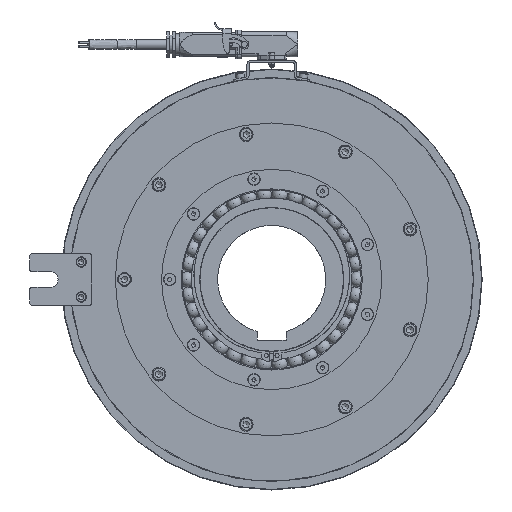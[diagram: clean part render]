
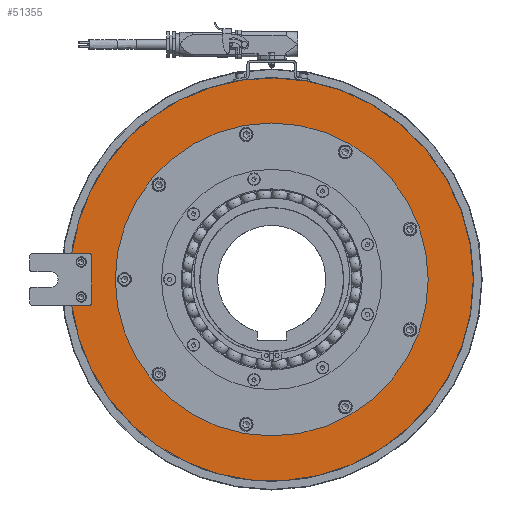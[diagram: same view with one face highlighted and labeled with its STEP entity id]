
A CAD part, left-side view. The second image highlights one B-rep face of the part: STEP entity #51355.
In plain terms, the highlighted planar face has unit normal (-1, 0, 0).
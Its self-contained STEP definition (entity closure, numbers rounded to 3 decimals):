
#1445=PLANE('',#55883);
#2688=FACE_BOUND('',#7663,.T.);
#4683=FACE_OUTER_BOUND('',#7662,.T.);
#7662=EDGE_LOOP('',(#39470,#39471,#39472,#39473,#39474,#39475,#39476,#39477));
#7663=EDGE_LOOP('',(#39478,#39479));
#9205=CIRCLE('',#52706,195.8);
#9208=CIRCLE('',#52709,195.8);
#10633=CIRCLE('',#55225,2.);
#10637=CIRCLE('',#55234,2.);
#10733=CIRCLE('',#55398,152.);
#10734=CIRCLE('',#55399,152.);
#11041=CIRCLE('',#55884,195.8);
#13065=LINE('',#82924,#16772);
#13071=LINE('',#82945,#16778);
#13076=LINE('',#82955,#16783);
#16772=VECTOR('',#64277,10.);
#16778=VECTOR('',#64301,10.);
#16783=VECTOR('',#64314,10.);
#19354=VERTEX_POINT('',#72592);
#19359=VERTEX_POINT('',#72602);
#19360=VERTEX_POINT('',#72604);
#19362=VERTEX_POINT('',#72608);
#21460=VERTEX_POINT('',#82915);
#21461=VERTEX_POINT('',#82917);
#21467=VERTEX_POINT('',#82939);
#21468=VERTEX_POINT('',#82941);
#21615=VERTEX_POINT('',#83410);
#21616=VERTEX_POINT('',#83411);
#24477=EDGE_CURVE('',#19360,#19359,#9205,.T.);
#24480=EDGE_CURVE('',#19354,#19362,#9208,.T.);
#27463=EDGE_CURVE('',#21461,#21460,#10633,.T.);
#27467=EDGE_CURVE('',#21460,#19360,#13065,.T.);
#27475=EDGE_CURVE('',#21468,#21467,#10637,.T.);
#27477=EDGE_CURVE('',#21467,#21461,#13071,.T.);
#27483=EDGE_CURVE('',#19362,#21468,#13076,.T.);
#27673=EDGE_CURVE('',#21615,#21616,#10733,.T.);
#27674=EDGE_CURVE('',#21616,#21615,#10734,.T.);
#28326=EDGE_CURVE('',#19359,#19354,#11041,.T.);
#39470=ORIENTED_EDGE('',*,*,#27467,.T.);
#39471=ORIENTED_EDGE('',*,*,#24477,.T.);
#39472=ORIENTED_EDGE('',*,*,#28326,.T.);
#39473=ORIENTED_EDGE('',*,*,#24480,.T.);
#39474=ORIENTED_EDGE('',*,*,#27483,.T.);
#39475=ORIENTED_EDGE('',*,*,#27475,.T.);
#39476=ORIENTED_EDGE('',*,*,#27477,.T.);
#39477=ORIENTED_EDGE('',*,*,#27463,.T.);
#39478=ORIENTED_EDGE('',*,*,#27673,.T.);
#39479=ORIENTED_EDGE('',*,*,#27674,.T.);
#51355=ADVANCED_FACE('',(#4683,#2688),#1445,.T.);
#52706=AXIS2_PLACEMENT_3D('',#72605,#58111,#58112);
#52709=AXIS2_PLACEMENT_3D('',#72610,#58117,#58118);
#55225=AXIS2_PLACEMENT_3D('',#82918,#64270,#64271);
#55234=AXIS2_PLACEMENT_3D('',#82942,#64296,#64297);
#55398=AXIS2_PLACEMENT_3D('',#83412,#64698,#64699);
#55399=AXIS2_PLACEMENT_3D('',#83413,#64700,#64701);
#55883=AXIS2_PLACEMENT_3D('',#91049,#65741,#65742);
#55884=AXIS2_PLACEMENT_3D('',#91050,#65743,#65744);
#58111=DIRECTION('center_axis',(-1.,0.,0.));
#58112=DIRECTION('ref_axis',(0.,1.,0.));
#58117=DIRECTION('center_axis',(-1.,0.,0.));
#58118=DIRECTION('ref_axis',(0.,1.,0.));
#64270=DIRECTION('center_axis',(1.,0.,0.));
#64271=DIRECTION('ref_axis',(0.,-0.707,-0.707));
#64277=DIRECTION('',(0.,1.,0.));
#64296=DIRECTION('center_axis',(1.,0.,0.));
#64297=DIRECTION('ref_axis',(0.,-0.707,0.707));
#64301=DIRECTION('',(0.,0.,-1.));
#64314=DIRECTION('',(0.,-1.,0.));
#64698=DIRECTION('center_axis',(1.,0.,0.));
#64699=DIRECTION('ref_axis',(0.,1.,0.));
#64700=DIRECTION('center_axis',(1.,0.,0.));
#64701=DIRECTION('ref_axis',(0.,1.,0.));
#65741=DIRECTION('center_axis',(-1.,0.,0.));
#65742=DIRECTION('ref_axis',(0.,0.,
1.));
#65743=DIRECTION('center_axis',(-1.,0.,0.));
#65744=DIRECTION('ref_axis',(0.,1.,0.));
#72592=CARTESIAN_POINT('',(-92.7,-34.,192.825));
#72602=CARTESIAN_POINT('',(-92.7,-195.8,0.));
#72604=CARTESIAN_POINT('',(-92.7,194.197,-25.));
#72605=CARTESIAN_POINT('Origin',(-92.7,0.,0.));
#72608=CARTESIAN_POINT('',(-92.7,194.197,25.));
#72610=CARTESIAN_POINT('Origin',(-92.7,0.,0.));
#82915=CARTESIAN_POINT('',(-92.7,177.,-25.));
#82917=CARTESIAN_POINT('',(-92.7,175.,-23.));
#82918=CARTESIAN_POINT('Origin',(-92.7,177.,-23.));
#82924=CARTESIAN_POINT('',(-92.7,170.2,-25.));
#82939=CARTESIAN_POINT('',(-92.7,175.,23.));
#82941=CARTESIAN_POINT('',(-92.7,177.,25.));
#82942=CARTESIAN_POINT('Origin',(-92.7,177.,23.));
#82945=CARTESIAN_POINT('',(-92.7,175.,12.5));
#82955=CARTESIAN_POINT('',(-92.7,200.2,25.));
#83410=CARTESIAN_POINT('',(-92.7,152.,0.));
#83411=CARTESIAN_POINT('',(-92.7,-152.,0.));
#83412=CARTESIAN_POINT('Origin',(-92.7,0.,0.));
#83413=CARTESIAN_POINT('Origin',(-92.7,0.,0.));
#91049=CARTESIAN_POINT('Origin',(-92.7,165.4,0.));
#91050=CARTESIAN_POINT('Origin',(-92.7,0.,0.));
